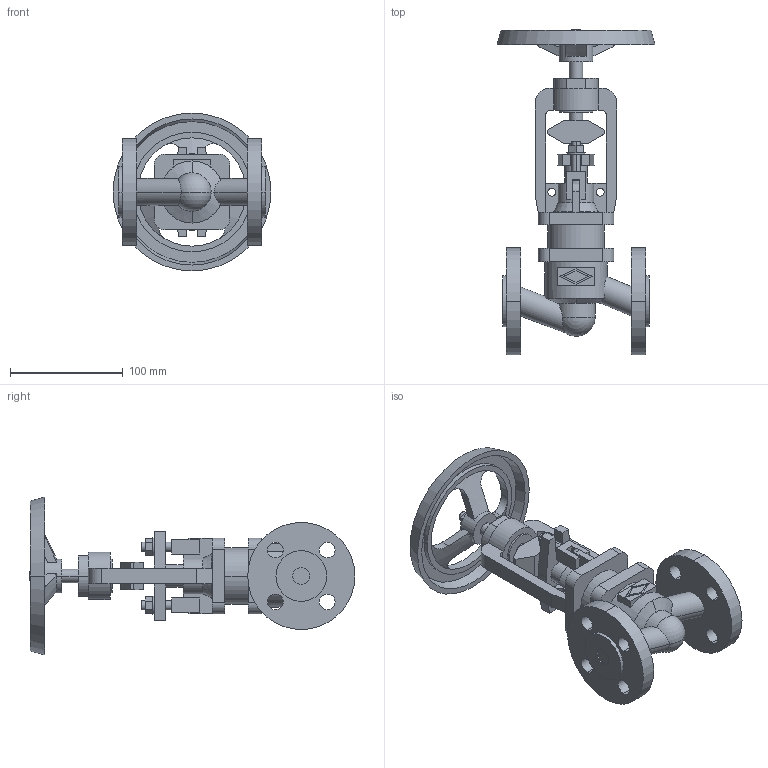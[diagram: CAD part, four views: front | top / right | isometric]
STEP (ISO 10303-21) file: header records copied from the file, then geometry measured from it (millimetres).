
FILE_DESCRIPTION(('OneSpaceDesigner STEP Export'),'2;1');
FILE_NAME('c000003746.stp','2009-06-16T10:58:35',(''),(''),'OneSpace Designer STEP processor for AP214 (Solid Model)','OneSpace Modeling 15.50B 03-Nov-2007 (C) CoCreate Software GmbH','');
FILE_SCHEMA(('AUTOMOTIVE_DESIGN { 1 0 10303 214 1 1 1 1 }'));
Length unit declared in the file: millimetre
Products named in the file (1): 1
Bounding box: 140 x 288.9 x 140 mm (x, y, z)
Volume: 695395.4 mm3; surface area: 147572.6 mm2
Topology: 1 solids, 1 shells, 283 faces, 740 edges, 484 vertices
Faces by surface type: plane 149, cylinder 107, cone 21, torus 4, sphere 2
Entity records: 10776 total; most frequent: CARTESIAN_POINT 1885, ORIENTED_EDGE 1476, DIRECTION 1229, EDGE_CURVE 738, VERTEX_POINT 484, VECTOR 435, LINE 435, AXIS2_PLACEMENT_3D 397
